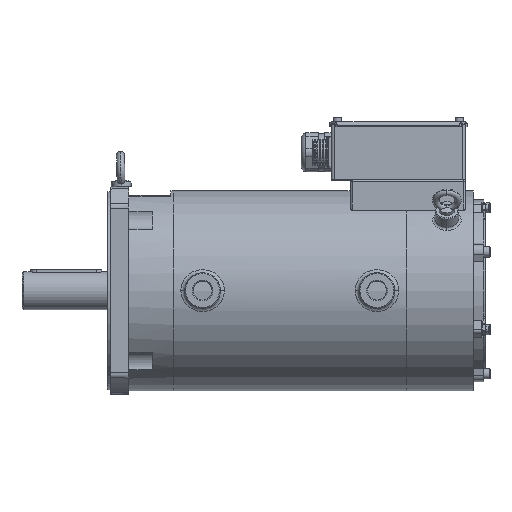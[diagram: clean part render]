
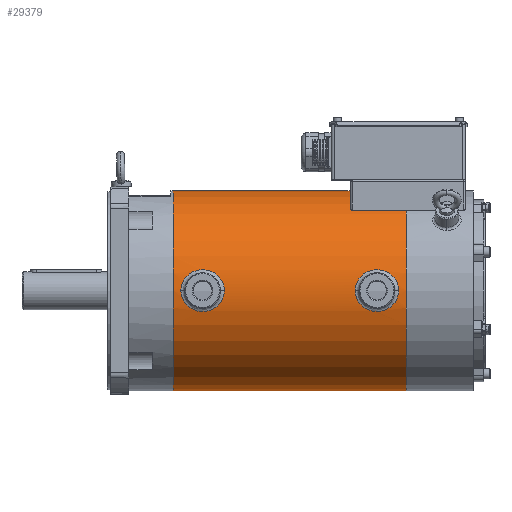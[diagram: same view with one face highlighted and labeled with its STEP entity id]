
A CAD part, top view. The second image highlights one B-rep face of the part: STEP entity #29379.
In plain terms, the highlighted cylindrical face has radius 126.5 mm (diameter 253 mm), a partial arc.
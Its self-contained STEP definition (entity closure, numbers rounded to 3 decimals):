
#24436=DIRECTION('',(-1.,0.,0.));
#24437=VECTOR('',#24436,294.5);
#24438=CARTESIAN_POINT('',(486.,126.5,
0.011));
#24439=LINE('',#24438,#24437);
#24521=CARTESIAN_POINT('',(486.,0.,
0.));
#24522=DIRECTION('',(1.,0.,0.));
#24523=DIRECTION('',(0.,1.,0.));
#24524=AXIS2_PLACEMENT_3D('',#24521,#24522,#24523);
#24526=DIRECTION('',(-1.,0.,0.));
#24527=VECTOR('',#24526,294.5);
#24528=CARTESIAN_POINT('',(486.,-126.5,
-0.011));
#24529=LINE('',#24528,#24527);
#24530=CARTESIAN_POINT('',(191.5,0.,
0.));
#24531=DIRECTION('',(-1.,0.,0.));
#24532=DIRECTION('',(0.,-1.,0.));
#24533=AXIS2_PLACEMENT_3D('',#24530,#24531,#24532);
#24535=CARTESIAN_POINT('',(421.5,-0.011,
126.5));
#24536=CARTESIAN_POINT('',(421.5,-1.821,
126.5));
#24537=CARTESIAN_POINT('',(421.876,-5.382,
126.423));
#24538=CARTESIAN_POINT('',(423.608,-10.663,
126.085));
#24539=CARTESIAN_POINT('',(426.459,-15.505,
125.574));
#24540=CARTESIAN_POINT('',(430.365,-19.74,
124.97));
#24541=CARTESIAN_POINT('',(435.146,-23.097,
124.385));
#24542=CARTESIAN_POINT('',(440.547,-25.396,
123.928));
#24543=CARTESIAN_POINT('',(446.324,-26.542,
123.684));
#24544=CARTESIAN_POINT('',(452.227,-26.486,
123.696));
#24545=CARTESIAN_POINT('',(457.994,-25.225,
123.964));
#24546=CARTESIAN_POINT('',(463.352,-22.813,
124.438));
#24547=CARTESIAN_POINT('',(468.017,-19.388,
125.025));
#24548=CARTESIAN_POINT('',(471.758,-15.2,
125.611));
#24549=CARTESIAN_POINT('',(474.546,-10.321,
126.114));
#24550=CARTESIAN_POINT('',(476.179,-5.063,
126.434));
#24551=CARTESIAN_POINT('',(476.5,-1.693,
126.5));
#24552=CARTESIAN_POINT('',(476.5,-0.011,
126.5));
#24554=CARTESIAN_POINT('',(476.5,-0.011,
126.5));
#24555=CARTESIAN_POINT('',(476.5,1.799,126.5));
#24556=CARTESIAN_POINT('',(476.124,5.36,126.424));
#24557=CARTESIAN_POINT('',(474.392,10.641,126.086));
#24558=CARTESIAN_POINT('',(471.541,15.484,125.577));
#24559=CARTESIAN_POINT('',(467.634,19.719,124.974));
#24560=CARTESIAN_POINT('',(462.854,23.076,124.389));
#24561=CARTESIAN_POINT('',(457.453,25.374,123.933));
#24562=CARTESIAN_POINT('',(451.676,26.52,123.689));
#24563=CARTESIAN_POINT('',(445.774,26.464,123.701));
#24564=CARTESIAN_POINT('',(440.007,25.203,123.968));
#24565=CARTESIAN_POINT('',(434.649,22.792,124.442));
#24566=CARTESIAN_POINT('',(429.984,19.367,125.029));
#24567=CARTESIAN_POINT('',(426.243,15.178,125.614));
#24568=CARTESIAN_POINT('',(423.454,10.299,126.115));
#24569=CARTESIAN_POINT('',(421.821,5.042,126.435));
#24570=CARTESIAN_POINT('',(421.5,1.671,126.5));
#24571=CARTESIAN_POINT('',(421.5,-0.011,
126.5));
#24573=CARTESIAN_POINT('',(201.,-0.011,
126.5));
#24574=CARTESIAN_POINT('',(201.,-1.821,
126.5));
#24575=CARTESIAN_POINT('',(201.376,-5.382,
126.423));
#24576=CARTESIAN_POINT('',(203.108,-10.663,
126.085));
#24577=CARTESIAN_POINT('',(205.959,-15.505,
125.574));
#24578=CARTESIAN_POINT('',(209.865,-19.74,
124.97));
#24579=CARTESIAN_POINT('',(214.646,-23.097,
124.385));
#24580=CARTESIAN_POINT('',(220.047,-25.396,
123.928));
#24581=CARTESIAN_POINT('',(225.824,-26.542,
123.684));
#24582=CARTESIAN_POINT('',(231.727,-26.486,
123.696));
#24583=CARTESIAN_POINT('',(237.494,-25.225,
123.964));
#24584=CARTESIAN_POINT('',(242.852,-22.813,
124.438));
#24585=CARTESIAN_POINT('',(247.517,-19.388,
125.025));
#24586=CARTESIAN_POINT('',(251.258,-15.2,
125.611));
#24587=CARTESIAN_POINT('',(254.046,-10.321,
126.114));
#24588=CARTESIAN_POINT('',(255.679,-5.063,
126.434));
#24589=CARTESIAN_POINT('',(256.,-1.693,
126.5));
#24590=CARTESIAN_POINT('',(256.,-0.011,
126.5));
#24592=CARTESIAN_POINT('',(256.,-0.011,
126.5));
#24593=CARTESIAN_POINT('',(256.,1.799,126.5));
#24594=CARTESIAN_POINT('',(255.624,5.36,126.424));
#24595=CARTESIAN_POINT('',(253.892,10.641,126.086));
#24596=CARTESIAN_POINT('',(251.041,15.484,125.577));
#24597=CARTESIAN_POINT('',(247.134,19.719,124.974));
#24598=CARTESIAN_POINT('',(242.354,23.076,124.389));
#24599=CARTESIAN_POINT('',(236.953,25.374,123.933));
#24600=CARTESIAN_POINT('',(231.176,26.52,123.689));
#24601=CARTESIAN_POINT('',(225.274,26.464,123.701));
#24602=CARTESIAN_POINT('',(219.507,25.203,123.968));
#24603=CARTESIAN_POINT('',(214.149,22.792,124.442));
#24604=CARTESIAN_POINT('',(209.484,19.367,125.029));
#24605=CARTESIAN_POINT('',(205.743,15.178,125.614));
#24606=CARTESIAN_POINT('',(202.954,10.299,126.115));
#24607=CARTESIAN_POINT('',(201.321,5.042,126.435));
#24608=CARTESIAN_POINT('',(201.,1.671,126.5));
#24609=CARTESIAN_POINT('',(201.,-0.011,
126.5));
#29061=CARTESIAN_POINT('',(486.,126.5,
0.011));
#29062=CARTESIAN_POINT('',(486.,-126.5,
-0.011));
#29063=VERTEX_POINT('',#29061);
#29064=VERTEX_POINT('',#29062);
#29065=CARTESIAN_POINT('',(191.5,126.5,
0.011));
#29066=CARTESIAN_POINT('',(191.5,-126.5,
-0.011));
#29067=VERTEX_POINT('',#29065);
#29068=VERTEX_POINT('',#29066);
#29286=VERTEX_POINT('',#24535);
#29287=VERTEX_POINT('',#24552);
#29290=VERTEX_POINT('',#24573);
#29291=VERTEX_POINT('',#24590);
#29354=CARTESIAN_POINT('',(486.,0.,
0.));
#29355=DIRECTION('',(-1.,0.,0.));
#29356=DIRECTION('',(0.,1.,0.));
#29357=AXIS2_PLACEMENT_3D('',#29354,#29355,#29356);
#29358=CYLINDRICAL_SURFACE('',#29357,126.5);
#29360=ORIENTED_EDGE('',*,*,#29359,.T.);
#29361=ORIENTED_EDGE('',*,*,#29337,.T.);
#29363=ORIENTED_EDGE('',*,*,#29362,.T.);
#29364=ORIENTED_EDGE('',*,*,#29333,.F.);
#29365=EDGE_LOOP('',(#29360,#29361,#29363,#29364));
#29366=FACE_OUTER_BOUND('',#29365,.F.);
#29368=ORIENTED_EDGE('',*,*,#29367,.T.);
#29370=ORIENTED_EDGE('',*,*,#29369,.T.);
#29371=EDGE_LOOP('',(#29368,#29370));
#29372=FACE_BOUND('',#29371,.F.);
#29374=ORIENTED_EDGE('',*,*,#29373,.T.);
#29376=ORIENTED_EDGE('',*,*,#29375,.T.);
#29377=EDGE_LOOP('',(#29374,#29376));
#29378=FACE_BOUND('',#29377,.F.);
#29379=ADVANCED_FACE('',(#29366,#29372,#29378),#29358,.T.);
#24525=CIRCLE('',#24524,126.5);
#24534=CIRCLE('',#24533,126.5);
#24553=B_SPLINE_CURVE_WITH_KNOTS('',3,(#24535,#24536,#24537,#24538,#24539,
#24540,#24541,#24542,#24543,#24544,#24545,#24546,#24547,#24548,#24549,#24550,
#24551,#24552),.UNSPECIFIED.,.F.,.F.,(4,1,1,1,1,1,1,1,1,1,1,1,1,1,1,4),(0.,
0.067,0.133,0.2,0.267,0.333,
0.4,0.467,0.533,0.6,0.667,
0.733,0.8,0.867,0.933,1.),
.UNSPECIFIED.);
#24572=B_SPLINE_CURVE_WITH_KNOTS('',3,(#24554,#24555,#24556,#24557,#24558,
#24559,#24560,#24561,#24562,#24563,#24564,#24565,#24566,#24567,#24568,#24569,
#24570,#24571),.UNSPECIFIED.,.F.,.F.,(4,1,1,1,1,1,1,1,1,1,1,1,1,1,1,4),(0.,
0.067,0.133,0.2,0.267,0.333,
0.4,0.467,0.533,0.6,0.667,
0.733,0.8,0.867,0.933,1.),
.UNSPECIFIED.);
#24591=B_SPLINE_CURVE_WITH_KNOTS('',3,(#24573,#24574,#24575,#24576,#24577,
#24578,#24579,#24580,#24581,#24582,#24583,#24584,#24585,#24586,#24587,#24588,
#24589,#24590),.UNSPECIFIED.,.F.,.F.,(4,1,1,1,1,1,1,1,1,1,1,1,1,1,1,4),(0.,
0.067,0.133,0.2,0.267,0.333,
0.4,0.467,0.533,0.6,0.667,
0.733,0.8,0.867,0.933,1.),
.UNSPECIFIED.);
#24610=B_SPLINE_CURVE_WITH_KNOTS('',3,(#24592,#24593,#24594,#24595,#24596,
#24597,#24598,#24599,#24600,#24601,#24602,#24603,#24604,#24605,#24606,#24607,
#24608,#24609),.UNSPECIFIED.,.F.,.F.,(4,1,1,1,1,1,1,1,1,1,1,1,1,1,1,4),(0.,
0.067,0.133,0.2,0.267,0.333,
0.4,0.467,0.533,0.6,0.667,
0.733,0.8,0.867,0.933,1.),
.UNSPECIFIED.);
#29333=EDGE_CURVE('',#29063,#29067,#24439,.T.);
#29337=EDGE_CURVE('',#29064,#29068,#24529,.T.);
#29359=EDGE_CURVE('',#29063,#29064,#24525,.T.);
#29362=EDGE_CURVE('',#29068,#29067,#24534,.T.);
#29367=EDGE_CURVE('',#29286,#29287,#24553,.T.);
#29369=EDGE_CURVE('',#29287,#29286,#24572,.T.);
#29373=EDGE_CURVE('',#29290,#29291,#24591,.T.);
#29375=EDGE_CURVE('',#29291,#29290,#24610,.T.);
